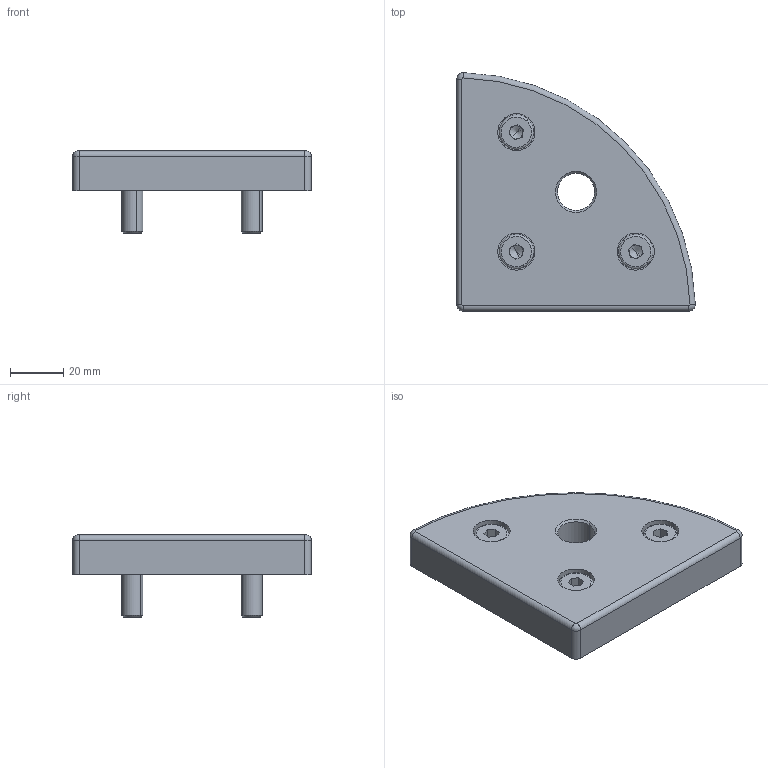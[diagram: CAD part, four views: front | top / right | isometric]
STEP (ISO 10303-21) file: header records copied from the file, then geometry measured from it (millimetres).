
FILE_DESCRIPTION (( 'STEP AP214' ), '1' );
FILE_NAME ('1.5017 Kierrelevy 90r90 M16.STEP', '2025-09-16T07:25:38', ( '' ), ( '' ), 'SwSTEP 2.0', 'SolidWorks 2025', '' );
FILE_SCHEMA (( 'AUTOMOTIVE_DESIGN' ));
Length unit declared in the file: millimetre
Products named in the file (1): 1.5017 Kierrelevy 90r90 M16
Bounding box: 89.96 x 89.96 x 31 mm (x, y, z)
Volume: 94029.5 mm3; surface area: 22127.7 mm2
Topology: 4 solids, 4 shells, 116 faces, 255 edges, 150 vertices
Faces by surface type: plane 52, cylinder 33, torus 17, cone 14
Entity records: 4475 total; most frequent: DIRECTION 607, CARTESIAN_POINT 516, ORIENTED_EDGE 498, EDGE_CURVE 249, AXIS2_PLACEMENT_3D 241, VERTEX_POINT 150, EDGE_LOOP 133, VECTOR 125
